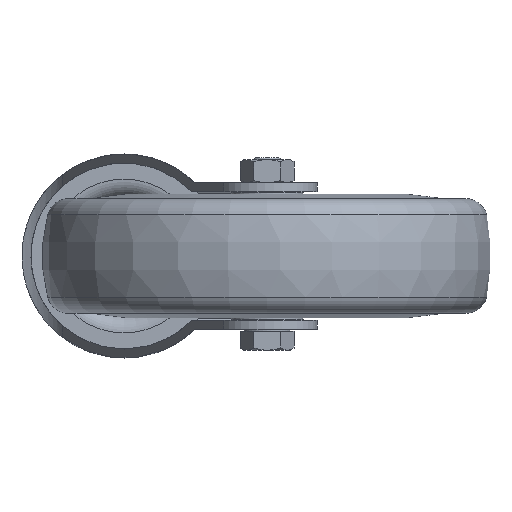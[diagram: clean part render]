
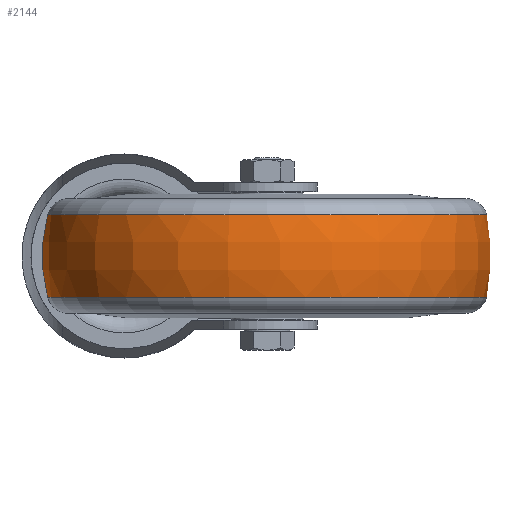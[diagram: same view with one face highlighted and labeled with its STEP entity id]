
A CAD part, front view. The second image highlights one B-rep face of the part: STEP entity #2144.
In plain terms, the highlighted toroidal (fillet/blend) face has major radius 17.82 mm and minor radius 45 mm.
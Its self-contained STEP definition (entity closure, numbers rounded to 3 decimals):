
#18=DEGENERATE_TOROIDAL_SURFACE('',#2424,17.82,45.,
 .T.);
#183=CIRCLE('',#2423,61.316);
#184=CIRCLE('',#2425,61.316);
#846=ORIENTED_EDGE('',*,*,#1248,.T.);
#847=ORIENTED_EDGE('',*,*,#1249,.F.);
#1248=EDGE_CURVE('',#1488,#1488,#183,.T.);
#1249=EDGE_CURVE('',#1489,#1489,#184,.T.);
#1488=VERTEX_POINT('',#3749);
#1489=VERTEX_POINT('',#3752);
#1688=EDGE_LOOP('',(#846));
#1689=EDGE_LOOP('',(#847));
#1905=FACE_BOUND('',#1688,.T.);
#1906=FACE_BOUND('',#1689,.T.);
#2144=ADVANCED_FACE('',(#1905,#1906),#18,.T.);
#2423=AXIS2_PLACEMENT_3D('',#3748,#2923,#2924);
#2424=AXIS2_PLACEMENT_3D('',#3750,#2925,#2926);
#2425=AXIS2_PLACEMENT_3D('',#3751,#2927,#2928);
#2923=DIRECTION('',(0.,0.,-1.));
#2924=DIRECTION('',(-1.,0.,0.));
#2925=DIRECTION('',(0.,0.,-1.));
#2926=DIRECTION('',(-1.,0.,0.));
#2927=DIRECTION('',(0.,0.,-1.));
#2928=DIRECTION('',(-1.,0.,0.));
#3748=CARTESIAN_POINT('',(0.,0.,11.538));
#3749=CARTESIAN_POINT('',(-61.316,0.,11.538));
#3750=CARTESIAN_POINT('',(0.,0.,0.));
#3751=CARTESIAN_POINT('',(0.,0.,-11.538));
#3752=CARTESIAN_POINT('',(-61.316,0.,-11.538));
